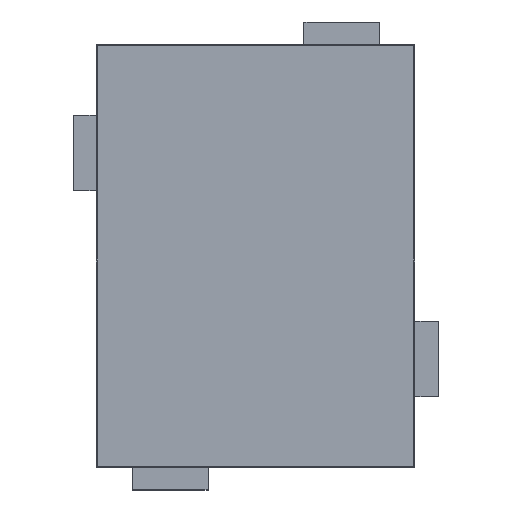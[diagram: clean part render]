
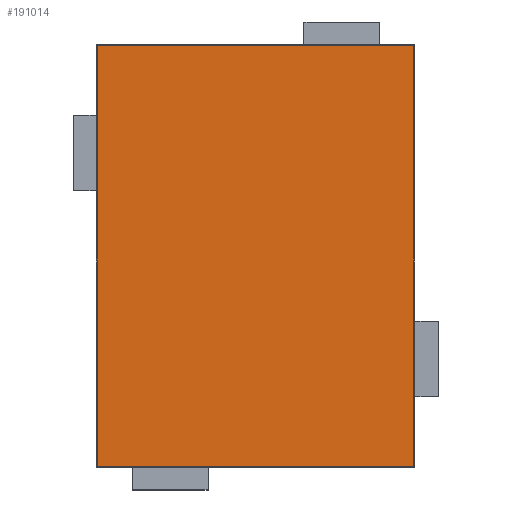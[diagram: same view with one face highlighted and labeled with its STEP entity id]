
A CAD part, top view. The second image highlights one B-rep face of the part: STEP entity #191014.
In plain terms, the highlighted free-form (B-spline) face has degree [1, 1] with [2, 2] control points.
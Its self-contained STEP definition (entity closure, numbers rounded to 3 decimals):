
#190909 = CARTESIAN_POINT ('', (40.001, 40., 5350.));
#190910 = VERTEX_POINT ('', #190909);
#190923 = CARTESIAN_POINT ('', (13900.001, 40., 5350.));
#190924 = VERTEX_POINT ('', #190923);
#190930 = CARTESIAN_POINT ('', (40.001, 40., 5350.));
#190931 = CARTESIAN_POINT ('', (13900.001, 40., 5350.));
#190932 = B_SPLINE_CURVE_WITH_KNOTS ('', 1, (#190930, #190931), .UNSPECIFIED., .F., .U., (2, 2), (0., 1.), .UNSPECIFIED.);
#190933 = EDGE_CURVE ('', #190910, #190924, #190932, .T.);
#190971 = CARTESIAN_POINT ('', (13900.001, 18440., 5350.));
#190972 = VERTEX_POINT ('', #190971);
#190978 = CARTESIAN_POINT ('', (13900.001, 40., 5350.));
#190979 = CARTESIAN_POINT ('', (13900.001, 18440., 5350.));
#190980 = B_SPLINE_CURVE_WITH_KNOTS ('', 1, (#190978, #190979), .UNSPECIFIED., .F., .U., (2, 2), (0., 1.), .UNSPECIFIED.);
#190981 = EDGE_CURVE ('', #190924, #190972, #190980, .T.);
#190993 = CARTESIAN_POINT ('', (40.001, 18440., 5350.));
#190994 = VERTEX_POINT ('', #190993);
#190995 = CARTESIAN_POINT ('', (40.001, 18440., 5350.));
#190996 = CARTESIAN_POINT ('', (13900.001, 18440., 5350.));
#190997 = B_SPLINE_CURVE_WITH_KNOTS ('', 1, (#190995, #190996), .UNSPECIFIED., .F., .U., (2, 2), (0., 1.), .UNSPECIFIED.);
#190998 = EDGE_CURVE ('', #190994, #190972, #190997, .T.);
#190999 = ORIENTED_EDGE ('', *, *, #190998, .F.);
#191000 = CARTESIAN_POINT ('', (40.001, 18440., 5350.));
#191001 = CARTESIAN_POINT ('', (40.001, 40., 5350.));
#191002 = B_SPLINE_CURVE_WITH_KNOTS ('', 1, (#191000, #191001), .UNSPECIFIED., .F., .U., (2, 2), (0., 1.), .UNSPECIFIED.);
#191003 = EDGE_CURVE ('', #190994, #190910, #191002, .T.);
#191004 = ORIENTED_EDGE ('', *, *, #191003, .T.);
#191005 = ORIENTED_EDGE ('', *, *, #190933, .T.);
#191006 = ORIENTED_EDGE ('', *, *, #190981, .T.);
#191007 = EDGE_LOOP ('', (#190999, #191004, #191005, #191006));
#191008 = FACE_OUTER_BOUND ('', #191007, .T.);
#191009 = CARTESIAN_POINT ('', (40.001, 18440., 5350.));
#191010 = CARTESIAN_POINT ('', (13900.001, 18440., 5350.));
#191011 = CARTESIAN_POINT ('', (40.001, 40., 5350.));
#191012 = CARTESIAN_POINT ('', (13900.001, 40., 5350.));
#191013 = B_SPLINE_SURFACE_WITH_KNOTS ('', 1, 1, ((#191009, #191010), (#191011, #191012)), .UNSPECIFIED., .F., .F., .U., (2, 2), (2, 2), (0., 1.), (0., 1.), .UNSPECIFIED.);
#191014 = ADVANCED_FACE ('', (#191008), #191013, .T.);
